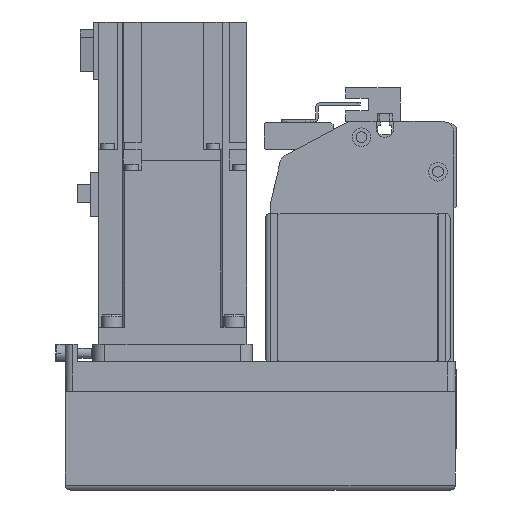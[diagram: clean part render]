
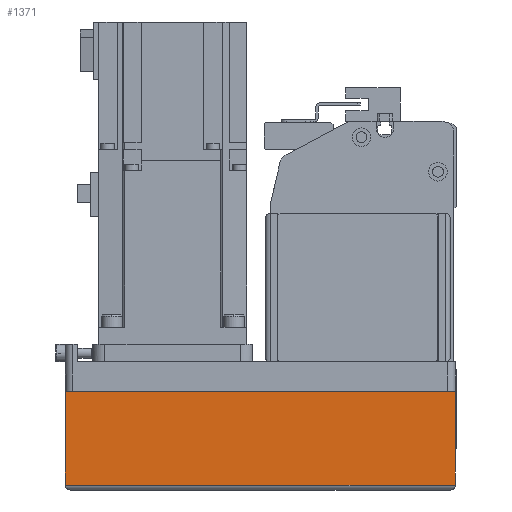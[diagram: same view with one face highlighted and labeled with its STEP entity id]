
A CAD part, left-side view. The second image highlights one B-rep face of the part: STEP entity #1371.
In plain terms, the highlighted planar face has unit normal (-1, 0, 0) as drawn and (0, -1, 0) by its records, which use the part's own axes.
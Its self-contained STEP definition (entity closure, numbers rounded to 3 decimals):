
#1371 = ADVANCED_FACE( '', ( #3489 ), #3490, .T. );
#3489 = FACE_OUTER_BOUND( '', #6548, .T. );
#3490 = PLANE( '', #6549 );
#6548 = EDGE_LOOP( '', ( #10386, #10387, #10388, #10389 ) );
#6549 = AXIS2_PLACEMENT_3D( '', #10390, #10391, #10392 );
#10386 = ORIENTED_EDGE( '', *, *, #18271, .F. );
#10387 = ORIENTED_EDGE( '', *, *, #18272, .F. );
#10388 = ORIENTED_EDGE( '', *, *, #18273, .T. );
#10389 = ORIENTED_EDGE( '', *, *, #18274, .T. );
#10390 = CARTESIAN_POINT( '', ( -158., -39., -12.1 ) );
#10391 = DIRECTION( '', ( 0., -1., 0. ) );
#10392 = DIRECTION( '', ( 0., 0., -1. ) );
#18271 = EDGE_CURVE( '', #22116, #22117, #22118, .T. );
#18272 = EDGE_CURVE( '', #22119, #22116, #22120, .T. );
#18273 = EDGE_CURVE( '', #22119, #22121, #22122, .T. );
#18274 = EDGE_CURVE( '', #22121, #22117, #22123, .T. );
#22116 = VERTEX_POINT( '', #27502 );
#22117 = VERTEX_POINT( '', #27503 );
#22118 = LINE( '', #27504, #27505 );
#22119 = VERTEX_POINT( '', #27506 );
#22120 = LINE( '', #27507, #27508 );
#22121 = VERTEX_POINT( '', #27509 );
#22122 = LINE( '', #27510, #27511 );
#22123 = LINE( '', #27512, #27513 );
#27502 = CARTESIAN_POINT( '', ( 0., -39., -12.1 ) );
#27503 = CARTESIAN_POINT( '', ( 0., -39., -50. ) );
#27504 = CARTESIAN_POINT( '', ( 0., -39., -12.1 ) );
#27505 = VECTOR( '', #33532, 1000. );
#27506 = CARTESIAN_POINT( '', ( -158., -39., -12.1 ) );
#27507 = CARTESIAN_POINT( '', ( -158., -39., -12.1 ) );
#27508 = VECTOR( '', #33533, 1000. );
#27509 = CARTESIAN_POINT( '', ( -158., -39., -50. ) );
#27510 = CARTESIAN_POINT( '', ( -158., -39., -12.1 ) );
#27511 = VECTOR( '', #33534, 1000. );
#27512 = CARTESIAN_POINT( '', ( -158., -39., -50. ) );
#27513 = VECTOR( '', #33535, 1000. );
#33532 = DIRECTION( '', ( 0., 0., -1. ) );
#33533 = DIRECTION( '', ( 1., 0., 0. ) );
#33534 = DIRECTION( '', ( 0., 0., -1. ) );
#33535 = DIRECTION( '', ( 1., 0., 0. ) );
